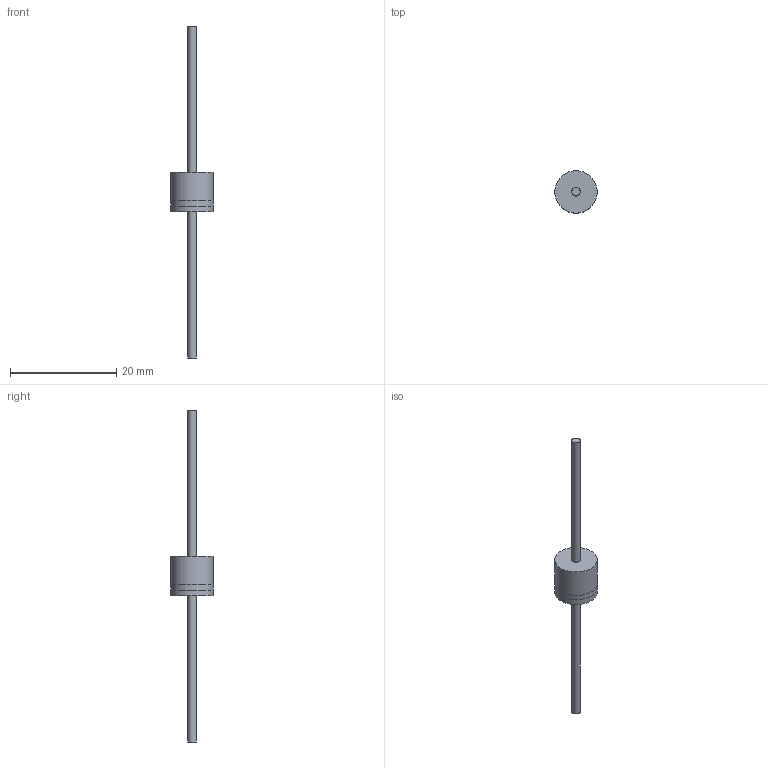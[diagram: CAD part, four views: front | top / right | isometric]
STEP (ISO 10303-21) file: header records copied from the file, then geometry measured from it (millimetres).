
FILE_DESCRIPTION(/* description */ (''),/* implementation_level */ '2;1');
FILE_NAME(/* name */ 'P32-20A_body.stp',/* time_stamp */ '2020-07-16T13:27:15+02:00',/* author */ (''),/* organization */ (''),/* preprocessor_version */ 'ST-DEVELOPER v14',/* originating_system */ 'SIEMENS PLM Software NX 8.0',/* authorisation */ '');
FILE_SCHEMA (('AUTOMOTIVE_DESIGN { 1 0 10303 214 3 1 1 1 }'));
Length unit declared in the file: millimetre
Products named in the file (1): 032003-03727_body
Bounding box: 8 x 8 x 62.5 mm (x, y, z)
Volume: 487.6 mm3; surface area: 636.7 mm2
Topology: 4 solids, 4 shells, 17 faces, 27 edges, 20 vertices
Faces by surface type: plane 10, cylinder 7
Full cylindrical faces by diameter (mm): 1.6 x2, 7.7 x2, 8 x3
Entity records: 449 total; most frequent: DIRECTION 64, CARTESIAN_POINT 51, AXIS2_PLACEMENT_3D 32, EDGE_LOOP 28, ORIENTED_EDGE 28, FACE_BOUND 22, PROPERTY_DEFINITION 21, PROPERTY_DEFINITION_REPRESENTATION 17
